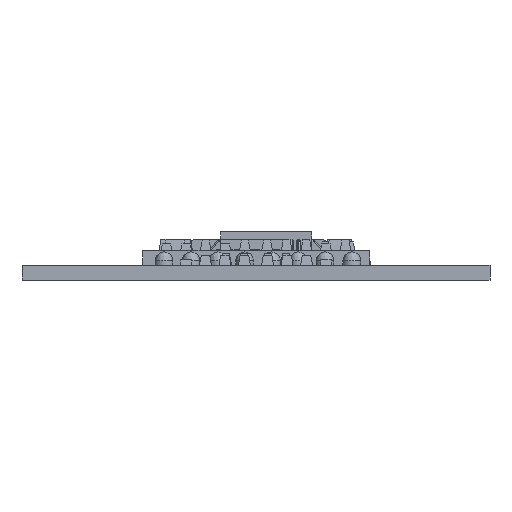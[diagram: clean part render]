
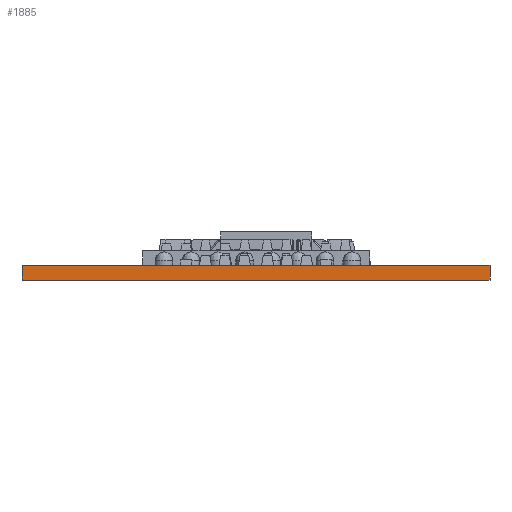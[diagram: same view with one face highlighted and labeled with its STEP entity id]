
A CAD part, front view. The second image highlights one B-rep face of the part: STEP entity #1885.
In plain terms, the highlighted planar face has unit normal (0, -1, 0).
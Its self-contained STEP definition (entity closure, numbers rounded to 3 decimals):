
#696=FACE_OUTER_BOUND('',#4882,.T.);
#1885=ADVANCED_FACE('',(#696),#3102,.F.);
#3102=PLANE('',#21826);
#4882=EDGE_LOOP('',(#6360,#6361,#6362,#6363));
#6360=ORIENTED_EDGE('',*,*,#14575,.T.);
#6361=ORIENTED_EDGE('',*,*,#14576,.F.);
#6362=ORIENTED_EDGE('',*,*,#14485,.F.);
#6363=ORIENTED_EDGE('',*,*,#14573,.T.);
#12487=VERTEX_POINT('',#30201);
#12488=VERTEX_POINT('',#30203);
#12575=VERTEX_POINT('',#30378);
#12576=VERTEX_POINT('',#30383);
#14485=EDGE_CURVE('',#12487,#12488,#17578,.T.);
#14573=EDGE_CURVE('',#12487,#12575,#17650,.T.);
#14575=EDGE_CURVE('',#12575,#12576,#17652,.T.);
#14576=EDGE_CURVE('',#12488,#12576,#17653,.T.);
#17578=LINE('',#30202,#19729);
#17650=LINE('',#30379,#19801);
#17652=LINE('',#30382,#19803);
#17653=LINE('',#30384,#19804);
#19729=VECTOR('',#23930,1.);
#19801=VECTOR('',#24036,1.);
#19803=VECTOR('',#24040,1.);
#19804=VECTOR('',#24041,1.);
#21826=AXIS2_PLACEMENT_3D('',#30385,#24042,#24043);
#23930=DIRECTION('',(1.,0.,0.));
#24036=DIRECTION('',(0.,0.,-1.));
#24040=DIRECTION('',(1.,0.,0.));
#24041=DIRECTION('',(0.,0.,-1.));
#24042=DIRECTION('',(0.,1.,0.));
#24043=DIRECTION('',(-1.,0.,0.));
#30201=CARTESIAN_POINT('',(-0.027,0.203,1.1));
#30202=CARTESIAN_POINT('',(-0.027,0.203,1.1));
#30203=CARTESIAN_POINT('',(34.85,0.203,1.1));
#30378=CARTESIAN_POINT('',(-0.027,0.203,0.));
#30379=CARTESIAN_POINT('',(-0.027,0.203,1.1));
#30382=CARTESIAN_POINT('',(-0.027,0.203,0.));
#30383=CARTESIAN_POINT('',(34.85,0.203,0.));
#30384=CARTESIAN_POINT('',(34.85,0.203,1.1));
#30385=CARTESIAN_POINT('',(-0.027,0.203,1.1));
